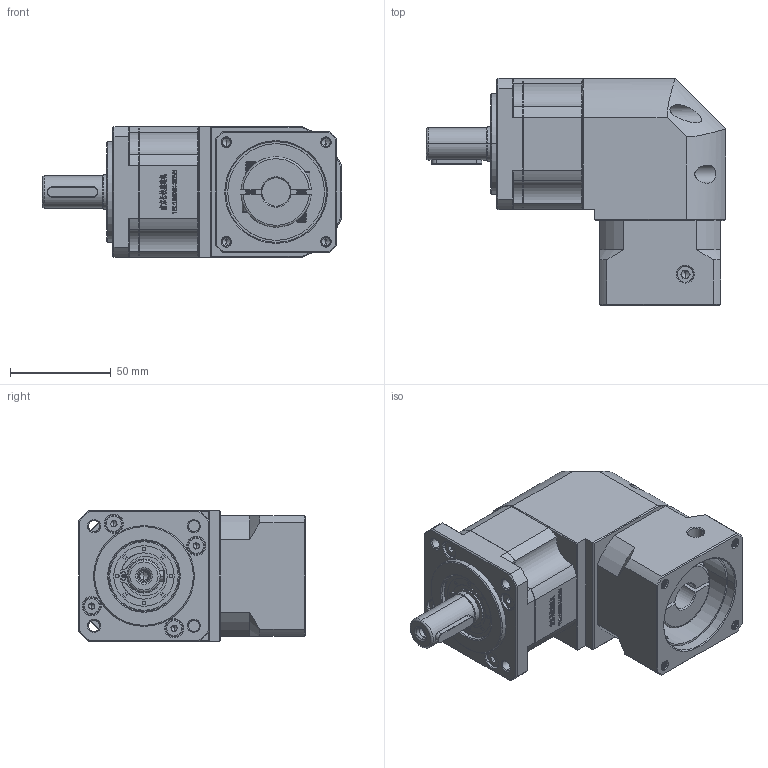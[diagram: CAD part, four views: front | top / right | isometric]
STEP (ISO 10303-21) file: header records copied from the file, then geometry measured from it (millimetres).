
FILE_DESCRIPTION (( 'STEP AP214' ), '1' );
FILE_NAME ('ZBR60-D16-L1-14-50-70-M5.STEP', '2022-04-19T08:57:50', ( '' ), ( 'Microsoft' ), 'SwSTEP 2.0', 'SolidWorks 2016', '' );
FILE_SCHEMA (( 'AUTOMOTIVE_DESIGN' ));
Length unit declared in the file: millimetre
Products named in the file (1): ZBR60-D16-L1-14-50-70-M5
Bounding box: 148.5 x 112.7 x 65 mm (x, y, z)
Volume: 526770.6 mm3; surface area: 77950 mm2
Topology: 5 solids, 5 shells, 2843 faces, 7685 edges, 4978 vertices
Faces by surface type: plane 1472, bspline 591, cylinder 432, cone 328, torus 20
Entity records: 155327 total; most frequent: CARTESIAN_POINT 57019, ORIENTED_EDGE 15310, DIRECTION 11619, EDGE_CURVE 7655, LINE 5059, VECTOR 5059, VERTEX_POINT 4978, AXIS2_PLACEMENT_3D 3280
